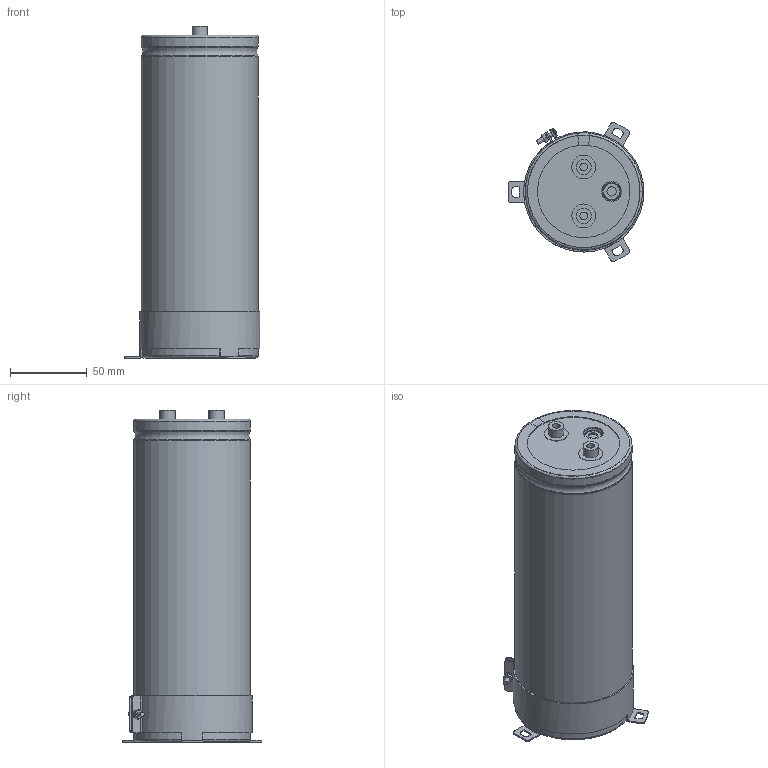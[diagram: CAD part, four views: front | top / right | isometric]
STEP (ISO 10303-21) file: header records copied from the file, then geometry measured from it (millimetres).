
FILE_DESCRIPTION(/* description */ (''),/* implementation_level */ '2;1');
FILE_NAME(/* name */ '76.2x210_Screw.stp',/* time_stamp */ '2017-09-17T13:41:05+09:00',/* author */ (''),/* organization */ (''),/* preprocessor_version */ 'ST-DEVELOPER v16',/* originating_system */ 'SIEMENS PLM Software NX 11.0',/* authorisation */ '');
FILE_SCHEMA (('AUTOMOTIVE_DESIGN { 1 0 10303 214 3 1 1 1 }'));
Length unit declared in the file: millimetre
Products named in the file (1): 76.2x210_Screw
Bounding box: 88.3 x 90.75 x 216 mm (x, y, z)
Volume: 960063.7 mm3; surface area: 180436.2 mm2
Topology: 9 solids, 9 shells, 259 faces, 642 edges, 413 vertices
Faces by surface type: plane 112, cylinder 66, torus 49, cone 31, sphere 1
Full cylindrical faces by diameter (mm): 3 x5, 5 x2, 5.5 x2, 6 x4, 8 x1, 10 x2, 13 x2, 15.5 x2, 75 x2
Entity records: 8534 total; most frequent: CARTESIAN_POINT 2182, DIRECTION 1296, ORIENTED_EDGE 1214, EDGE_CURVE 607, AXIS2_PLACEMENT_3D 541, VERTEX_POINT 408, EDGE_LOOP 317, CIRCLE 281
